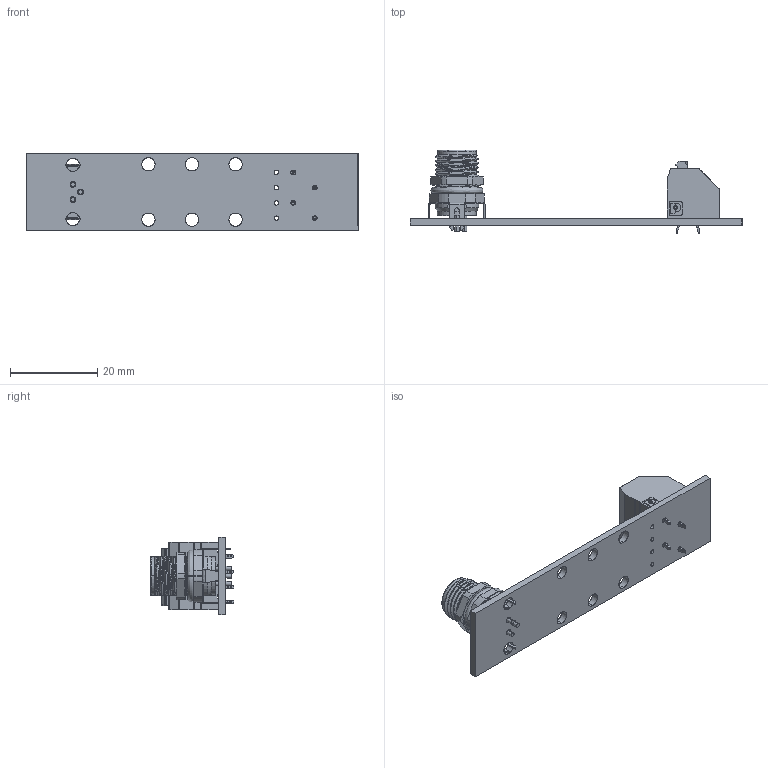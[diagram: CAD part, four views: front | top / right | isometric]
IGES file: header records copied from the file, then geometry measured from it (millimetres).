
Start section: SolidWorks IGES file using analytic representation for surfaces
Global section: file name: W:\end-user\products\brk\brkgm8\brkgm8a-3fs\3dmodel\rev_a\render\brkgm8a-3fs-n.igs; native system: SolidWorks 2018; preprocessor: SolidWorks 2018; author: leviroy; date: 241008.143506; units: inch
Bounding box: 76.2 x 19.2 x 17.78 mm (x, y, z)
Surface area: 5718.3 mm2 (no closed solid volume)
Topology: 0 solids, 0 shells, 1639 faces, 14536 edges, 14536 vertices
Faces by surface type: bspline 1271, revolution 368
